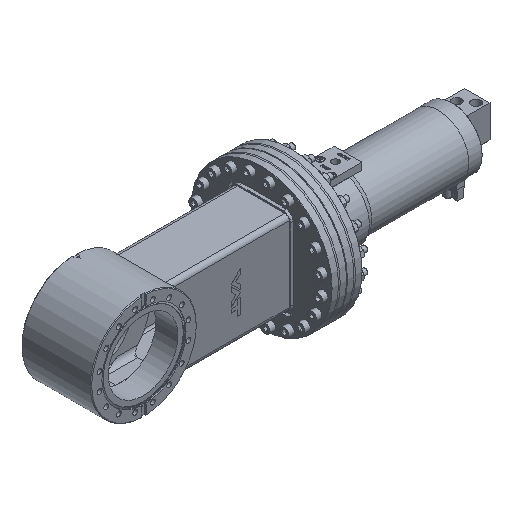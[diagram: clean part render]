
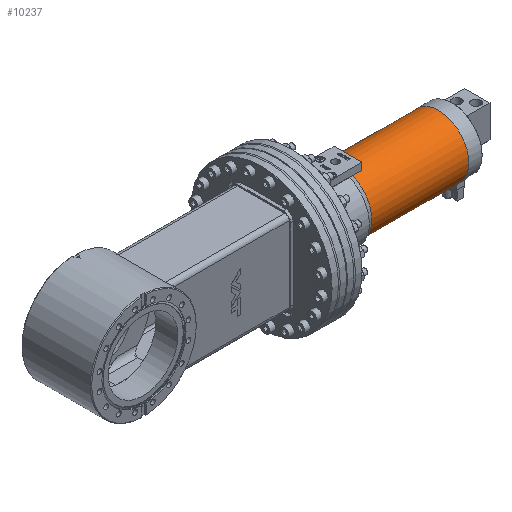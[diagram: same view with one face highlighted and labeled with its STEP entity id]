
A CAD part, isometric view. The second image highlights one B-rep face of the part: STEP entity #10237.
In plain terms, the highlighted cylindrical face has radius 43.5 mm (diameter 87 mm), a full revolution.
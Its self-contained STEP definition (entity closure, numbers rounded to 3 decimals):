
#8325=CYLINDRICAL_SURFACE('',#25521,43.5);
#8981=FACE_BOUND('',#12691,.T.);
#8982=FACE_BOUND('',#12692,.T.);
#10237=ADVANCED_FACE('',(#8981,#8982),#8325,.T.);
#12691=EDGE_LOOP('',(#16438));
#12692=EDGE_LOOP('',(#16439));
#14086=CIRCLE('',#25518,43.5);
#14087=CIRCLE('',#25520,43.5);
#16438=ORIENTED_EDGE('',*,*,#21493,.T.);
#16439=ORIENTED_EDGE('',*,*,#21492,.F.);
#19574=VERTEX_POINT('',#34830);
#19575=VERTEX_POINT('',#34833);
#21492=EDGE_CURVE('',#19574,#19574,#14086,.T.);
#21493=EDGE_CURVE('',#19575,#19575,#14087,.T.);
#25518=AXIS2_PLACEMENT_3D('',#34829,#28827,#28828);
#25520=AXIS2_PLACEMENT_3D('',#34832,#28831,#28832);
#25521=AXIS2_PLACEMENT_3D('',#34834,#28833,#28834);
#28827=DIRECTION('',(-1.,0.,0.));
#28828=DIRECTION('',(0.,0.,1.));
#28831=DIRECTION('',(-1.,0.,0.));
#28832=DIRECTION('',(0.,0.,1.));
#28833=DIRECTION('',(-1.,0.,0.));
#28834=DIRECTION('',(0.,0.,1.));
#34829=CARTESIAN_POINT('',(0.,0.,0.));
#34830=CARTESIAN_POINT('',(0.,0.,43.5));
#34832=CARTESIAN_POINT('',(139.5,0.,0.));
#34833=CARTESIAN_POINT('',(139.5,0.,43.5));
#34834=CARTESIAN_POINT('',(0.,0.,0.));
